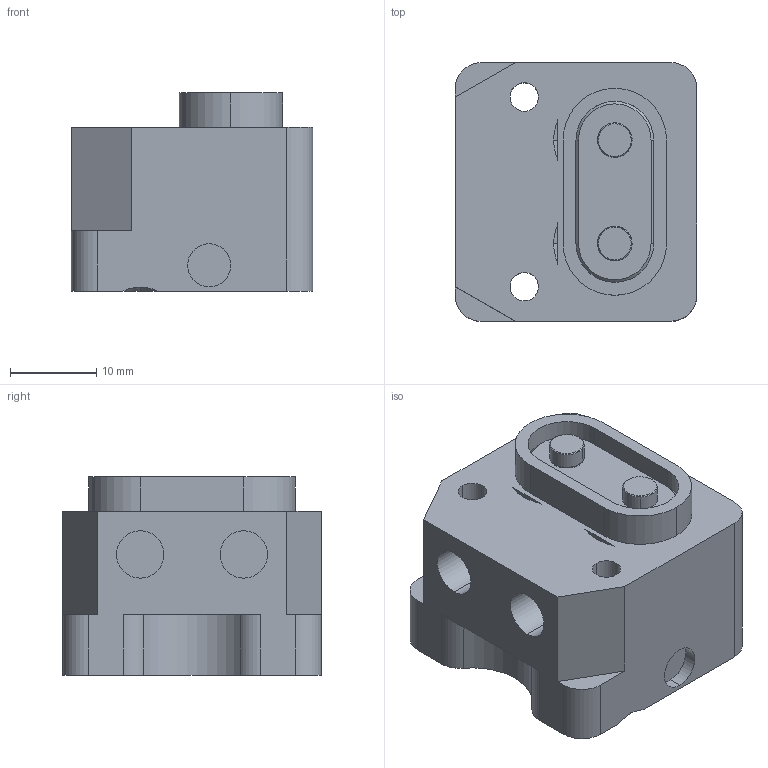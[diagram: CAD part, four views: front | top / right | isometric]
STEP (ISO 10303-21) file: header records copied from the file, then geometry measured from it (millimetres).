
FILE_DESCRIPTION(/* description */ (''),/* implementation_level */ '2;1');
FILE_NAME(/* name */ 'QCHFM-2G.stp',/* time_stamp */ '2024-04-28T13:48:53+08:00',/* author */ (''),/* organization */ (''),/* preprocessor_version */ 'ST-DEVELOPER v16.7',/* originating_system */ 'SIEMENS PLM Software NX 12.0',/* authorisation */ '');
FILE_SCHEMA (('AUTOMOTIVE_DESIGN { 1 0 10303 214 3 1 1 1 }'));
Length unit declared in the file: millimetre
Products named in the file (1): _model4
Bounding box: 28 x 30 x 23 mm (x, y, z)
Volume: 14734.4 mm3; surface area: 6023.7 mm2
Topology: 3 solids, 3 shells, 140 faces, 325 edges, 207 vertices
Faces by surface type: cylinder 68, plane 45, cone 19, torus 8
Entity records: 4473 total; most frequent: CARTESIAN_POINT 955, DIRECTION 758, ORIENTED_EDGE 650, EDGE_CURVE 325, AXIS2_PLACEMENT_3D 312, VERTEX_POINT 207, CIRCLE 171, EDGE_LOOP 170
